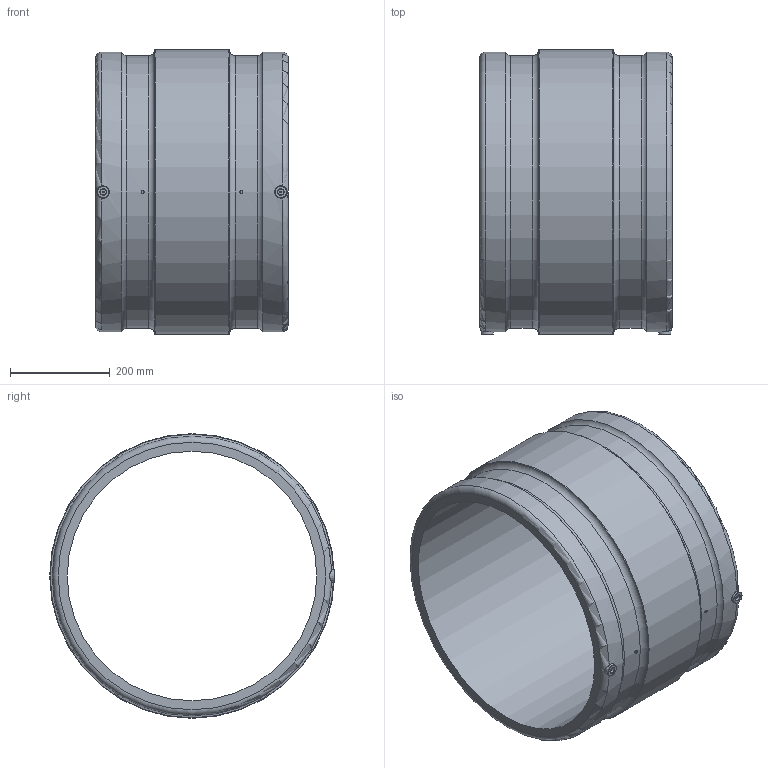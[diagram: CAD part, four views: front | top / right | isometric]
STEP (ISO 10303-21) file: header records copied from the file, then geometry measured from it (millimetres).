
FILE_DESCRIPTION(/* description */ ('Unknown'),/* implementation_level */ '2;1');
FILE_NAME(/* name */ 'MP500B',/* time_stamp */ '2021-12-09T14:57:36+01:00',/* author */ ('Unknown'),/* organization */ ('Unknown'),/* preprocessor_version */ 'ST-DEVELOPER v16.7',/* originating_system */ 'Solid Edge',/* authorisation */ 'Unknown');
FILE_SCHEMA (('AUTOMOTIVE_DESIGN {1 0 10303 214 3 1 1}'));
Length unit declared in the file: millimetre
Products named in the file (1): MP500B
Bounding box: 386 x 570 x 570 mm (x, y, z)
Volume: 19036656.8 mm3; surface area: 1401133.9 mm2
Topology: 1 solids, 1 shells, 36 faces, 77 edges, 49 vertices
Faces by surface type: cylinder 12, plane 10, torus 8, cone 6
Full cylindrical faces by diameter (mm): 4 x2, 6 x2, 12 x2, 500 x1, 546 x2, 560 x2, 570 x1
Entity records: 822 total; most frequent: CARTESIAN_POINT 181, DIRECTION 138, ORIENTED_EDGE 76, EDGE_LOOP 70, FACE_BOUND 70, AXIS2_PLACEMENT_3D 69, EDGE_CURVE 38, VERTEX_POINT 36
